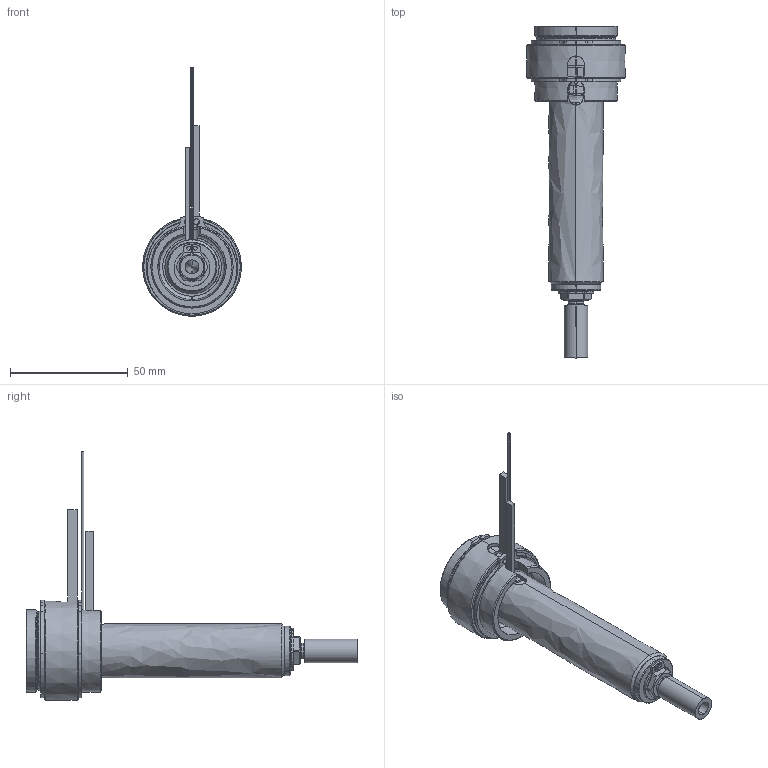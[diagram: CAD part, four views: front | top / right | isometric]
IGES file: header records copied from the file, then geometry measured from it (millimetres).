
Start section: SolidWorks IGES file using analytic representation for surfaces
Global section: file name: C:\Users\luca.EMPAD\Desktop\TEM\UGBE3502-S-A-P-5 [Ød-1.0 P-20 ØC-6.0].IGS; native system: SolidWorks 2012; preprocessor: SolidWorks 2012; author: luca; date: 120330.135525; units: millimetre
Bounding box: 42 x 141 x 105.6 mm (x, y, z)
Surface area: 29432.7 mm2 (no closed solid volume)
Topology: 0 solids, 0 shells, 190 faces, 3514 edges, 3514 vertices
Faces by surface type: revolution 122, bspline 68
